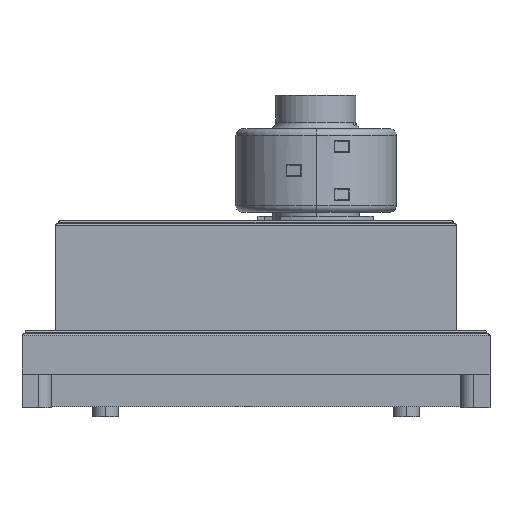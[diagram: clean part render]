
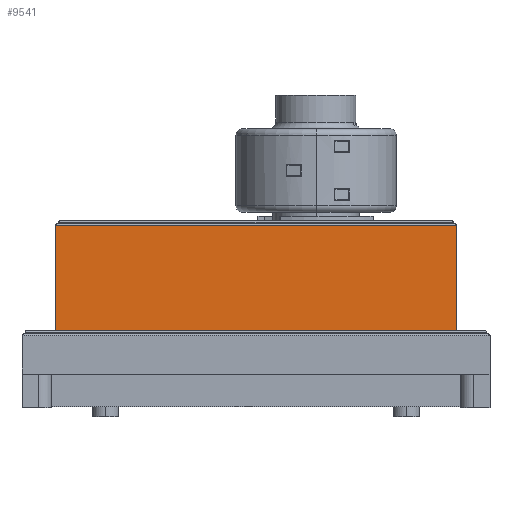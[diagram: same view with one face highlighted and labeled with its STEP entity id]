
A CAD part, top view. The second image highlights one B-rep face of the part: STEP entity #9541.
In plain terms, the highlighted planar face has unit normal (0, 0, 1).
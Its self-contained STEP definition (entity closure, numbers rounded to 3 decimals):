
#1637=DIRECTION('',(0.,-1.,0.));
#1638=VECTOR('',#1637,31.5);
#1639=CARTESIAN_POINT('',(60.,54.,42.3));
#1640=LINE('',#1639,#1638);
#1670=DIRECTION('',(-1.,0.,0.));
#1671=VECTOR('',#1670,120.);
#1672=CARTESIAN_POINT('',(60.,54.,42.3));
#1673=LINE('',#1672,#1671);
#1682=DIRECTION('',(-1.,0.,0.));
#1683=VECTOR('',#1682,120.);
#1684=CARTESIAN_POINT('',(60.,22.5,42.3));
#1685=LINE('',#1684,#1683);
#1778=DIRECTION('',(0.,1.,0.));
#1779=VECTOR('',#1778,31.5);
#1780=CARTESIAN_POINT('',(-60.,22.5,42.3));
#1781=LINE('',#1780,#1779);
#7140=CARTESIAN_POINT('',(-60.,22.5,42.3));
#7142=VERTEX_POINT('',#7140);
#7144=CARTESIAN_POINT('',(60.,22.5,42.3));
#7145=VERTEX_POINT('',#7144);
#7375=CARTESIAN_POINT('',(60.,54.,42.3));
#7377=VERTEX_POINT('',#7375);
#7384=CARTESIAN_POINT('',(-60.,54.,42.3));
#7385=VERTEX_POINT('',#7384);
#9528=CARTESIAN_POINT('',(-60.,22.5,42.3));
#9529=DIRECTION('',(0.,0.,1.));
#9530=DIRECTION('',(1.,0.,0.));
#9531=AXIS2_PLACEMENT_3D('',#9528,#9529,#9530);
#9532=PLANE('',#9531);
#9533=ORIENTED_EDGE('',*,*,#9522,.F.);
#9534=ORIENTED_EDGE('',*,*,#9468,.T.);
#9536=ORIENTED_EDGE('',*,*,#9535,.T.);
#9538=ORIENTED_EDGE('',*,*,#9537,.T.);
#9539=EDGE_LOOP('',(#9533,#9534,#9536,#9538));
#9540=FACE_OUTER_BOUND('',#9539,.F.);
#9541=ADVANCED_FACE('',(#9540),#9532,.T.);
#9468=EDGE_CURVE('',#7377,#7145,#1640,.T.);
#9522=EDGE_CURVE('',#7377,#7385,#1673,.T.);
#9535=EDGE_CURVE('',#7145,#7142,#1685,.T.);
#9537=EDGE_CURVE('',#7142,#7385,#1781,.T.);
